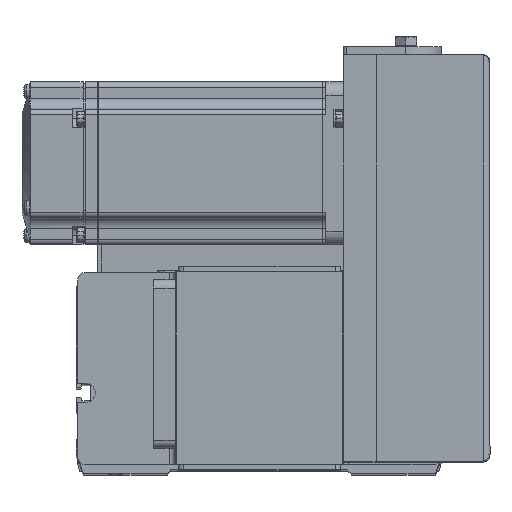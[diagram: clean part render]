
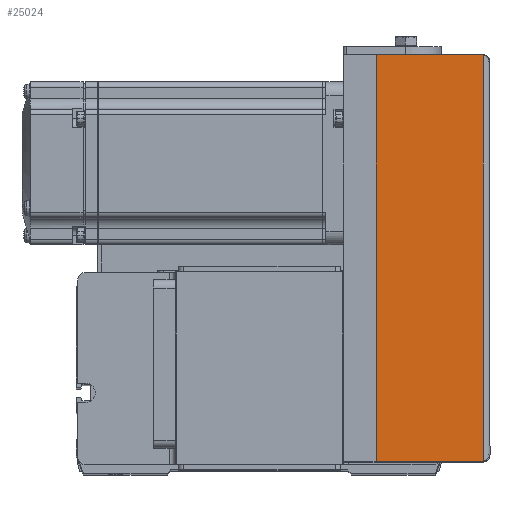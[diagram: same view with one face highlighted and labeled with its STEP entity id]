
A CAD part, top view. The second image highlights one B-rep face of the part: STEP entity #25024.
In plain terms, the highlighted planar face has unit normal (0, 0, 1) as drawn and (0, -1, 0) by its records, which use the part's own axes.
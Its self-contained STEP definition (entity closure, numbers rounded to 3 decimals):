
#649 = ORIENTED_EDGE ( 'NONE', *, *, #11728, .F. ) ;
#2076 = FACE_OUTER_BOUND ( 'NONE', #18226, .T. ) ;
#3730 = LINE ( 'NONE', #32574, #24950 ) ;
#3827 = CARTESIAN_POINT ( 'NONE',  ( 0., -36., 12. ) ) ;
#6254 = VERTEX_POINT ( 'NONE', #27646 ) ;
#7859 = DIRECTION ( 'NONE',  ( 0., 0., -1. ) ) ;
#7923 = VERTEX_POINT ( 'NONE', #33038 ) ;
#9770 = LINE ( 'NONE', #3827, #36725 ) ;
#10379 = EDGE_CURVE ( 'NONE', #7923, #36331, #3730, .T. ) ;
#10493 = VECTOR ( 'NONE', #13094, 1000. ) ;
#11728 = EDGE_CURVE ( 'NONE', #12061, #6254, #28329, .T. ) ;
#12061 = VERTEX_POINT ( 'NONE', #19130 ) ;
#13001 = VECTOR ( 'NONE', #21355, 1000. ) ;
#13094 = DIRECTION ( 'NONE',  ( 1., 0., 0. ) ) ;
#13415 = PLANE ( 'NONE',  #31381 ) ;
#15441 = ORIENTED_EDGE ( 'NONE', *, *, #29543, .F. ) ;
#15802 = DIRECTION ( 'NONE',  ( 0., 0., -1. ) ) ;
#15975 = ORIENTED_EDGE ( 'NONE', *, *, #30690, .T. ) ;
#16088 = LINE ( 'NONE', #30244, #10493 ) ;
#17157 = CARTESIAN_POINT ( 'NONE',  ( 75., -36., 51.5 ) ) ;
#18226 = EDGE_LOOP ( 'NONE', ( #15441, #18902, #15975, #649 ) ) ;
#18902 = ORIENTED_EDGE ( 'NONE', *, *, #10379, .T. ) ;
#19130 = CARTESIAN_POINT ( 'NONE',  ( 75., -36., 51.5 ) ) ;
#21355 = DIRECTION ( 'NONE',  ( 0., 0., -1. ) ) ;
#21991 = CARTESIAN_POINT ( 'NONE',  ( 0., -36., 52. ) ) ;
#24950 = VECTOR ( 'NONE', #15802, 1000. ) ;
#25024 = ADVANCED_FACE ( 'NONE', ( #2076 ), #13415, .F. ) ;
#27646 = CARTESIAN_POINT ( 'NONE',  ( 75., -36., 12. ) ) ;
#28329 = LINE ( 'NONE', #17157, #13001 ) ;
#29518 = DIRECTION ( 'NONE',  ( 1., 0., 0. ) ) ;
#29543 = EDGE_CURVE ( 'NONE', #7923, #12061, #16088, .T. ) ;
#30244 = CARTESIAN_POINT ( 'NONE',  ( 75., -36., 51.5 ) ) ;
#30690 = EDGE_CURVE ( 'NONE', #36331, #6254, #9770, .T. ) ;
#31373 = CARTESIAN_POINT ( 'NONE',  ( -75., -36., 12. ) ) ;
#31381 = AXIS2_PLACEMENT_3D ( 'NONE', #21991, #33374, #7859 ) ;
#32574 = CARTESIAN_POINT ( 'NONE',  ( -75., -36., 51.5 ) ) ;
#33038 = CARTESIAN_POINT ( 'NONE',  ( -75., -36., 51.5 ) ) ;
#33374 = DIRECTION ( 'NONE',  ( 0., 1., 0. ) ) ;
#36331 = VERTEX_POINT ( 'NONE', #31373 ) ;
#36725 = VECTOR ( 'NONE', #29518, 1000. ) ;
